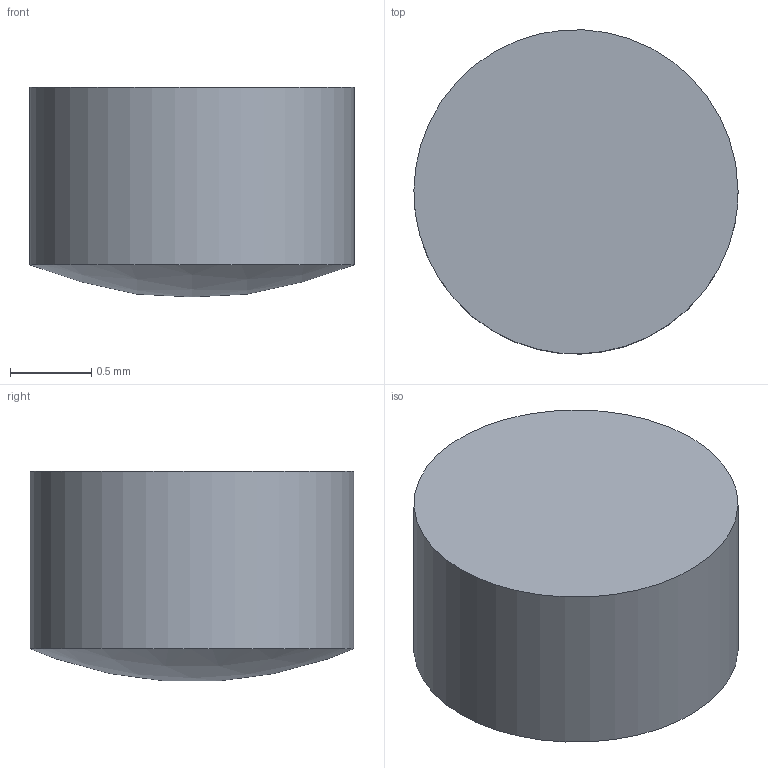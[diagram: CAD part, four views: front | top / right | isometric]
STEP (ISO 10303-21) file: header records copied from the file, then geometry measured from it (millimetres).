
FILE_DESCRIPTION ((), '1');
FILE_NAME ('C:\Users\r.sato\Desktop\<', '2016-12-19T18:30:48', ('Unknown'), ('Unknown'), 'HarmonyWare STEP v1.9.13', 'HarmonyWare Translators', '');
FILE_SCHEMA (('CONFIG_CONTROL_DESIGN'));
Length unit declared in the file: millimetre
Products named in the file (1): NONE
Bounding box: 2 x 2 x 1.29 mm (x, y, z)
Volume: 3.8 mm3; surface area: 13.3 mm2
Topology: 1 solids, 1 shells, 3 faces, 3 edges, 2 vertices
Faces by surface type: sphere 1, plane 1, cylinder 1
Full cylindrical faces by diameter (mm): 2 x1
Entity records: 151 total; most frequent: CARTESIAN_POINT 25, PERSON 8, ORGANIZATION 8, PERSON_AND_ORGANIZATION 8, ORIENTED_EDGE 6, DIRECTION 6, PERSON_AND_ORGANIZATION_ROLE 5, CC_DESIGN_PERSON_AND_ORGANIZATION_ASSIGNMENT 5
